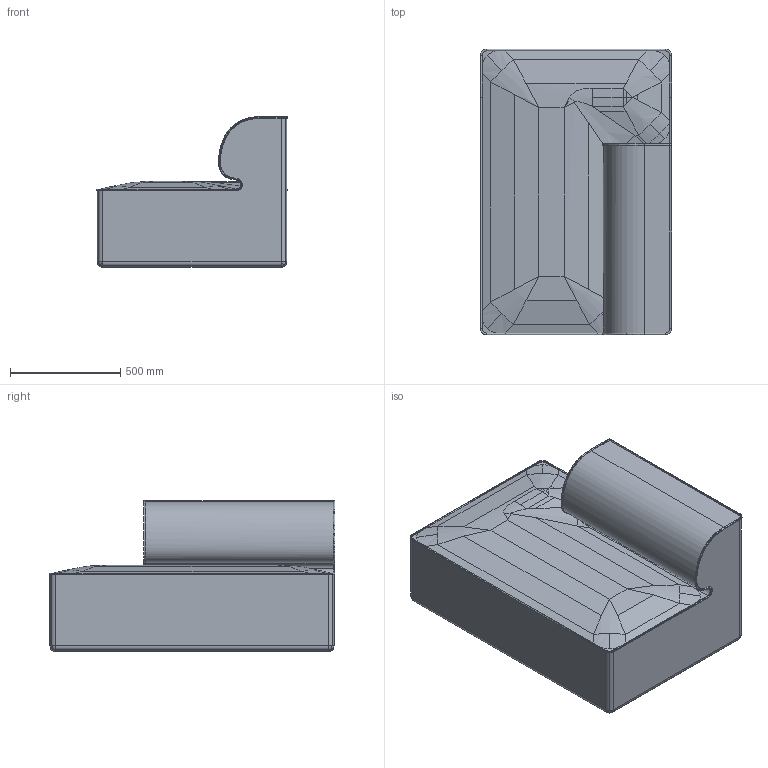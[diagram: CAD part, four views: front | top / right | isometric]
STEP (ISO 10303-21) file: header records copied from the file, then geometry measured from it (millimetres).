
FILE_DESCRIPTION (( 'STEP AP214' ), '1' );
FILE_NAME ('Eave_Modular_Open_End_Right.STEP', '2023-01-17T08:47:12', ( '' ), ( '' ), 'SwSTEP 2.0', 'SolidWorks 2022', '' );
FILE_SCHEMA (( 'AUTOMOTIVE_DESIGN' ));
Length unit declared in the file: millimetre
Products named in the file (1): Eave_Modular_Open_End_Right
Bounding box: 868 x 1298 x 684 mm (x, y, z)
Surface area: 4611519.8 mm2 (no closed solid volume)
Topology: 0 solids, 7 shells, 134 faces, 320 edges, 185 vertices
Faces by surface type: cylinder 67, plane 20, sphere 20, torus 14, bspline 13
Entity records: 6815 total; most frequent: CARTESIAN_POINT 2401, ORIENTED_EDGE 607, DIRECTION 603, EDGE_CURVE 316, AXIS2_PLACEMENT_3D 248, VERTEX_POINT 185, UNCERTAINTY_MEASURE_WITH_UNIT 136, COLOUR_RGB 135
